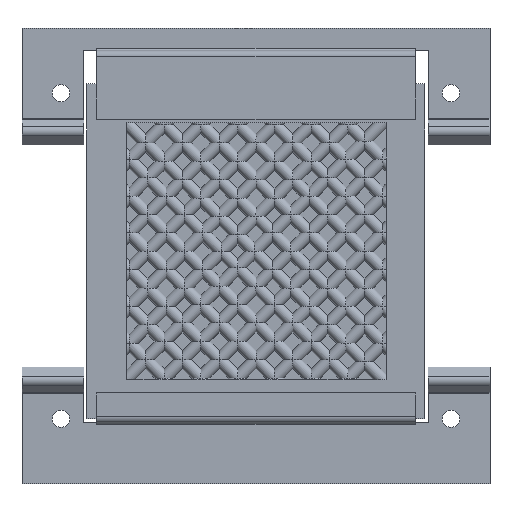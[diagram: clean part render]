
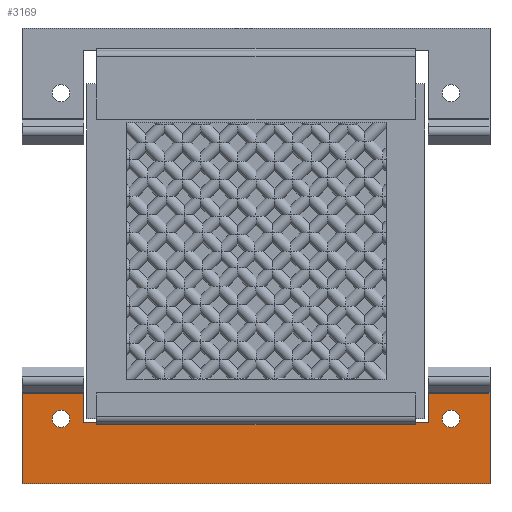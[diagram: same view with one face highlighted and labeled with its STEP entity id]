
A CAD part, front view. The second image highlights one B-rep face of the part: STEP entity #3169.
In plain terms, the highlighted planar face has unit normal (0, -1, 0).
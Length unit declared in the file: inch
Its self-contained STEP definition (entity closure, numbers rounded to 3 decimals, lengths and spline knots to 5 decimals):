
#2301=DIRECTION('',(-1.,0.,0.));
#2302=VECTOR('',#2301,0.125);
#2303=CARTESIAN_POINT('',(1.656,0.,-0.1389));
#2304=LINE('',#2303,#2302);
#2305=DIRECTION('',(0.,0.,-1.));
#2306=VECTOR('',#2305,0.02);
#2307=CARTESIAN_POINT('',(1.531,0.,-0.1189));
#2308=LINE('',#2307,#2306);
#2309=DIRECTION('',(0.,0.,-1.));
#2310=VECTOR('',#2309,0.02);
#2311=CARTESIAN_POINT('',(-1.531,0.,-0.1189));
#2312=LINE('',#2311,#2310);
#2313=DIRECTION('',(-1.,0.,0.));
#2314=VECTOR('',#2313,0.125);
#2315=CARTESIAN_POINT('',(-1.531,0.,-0.1389));
#2316=LINE('',#2315,#2314);
#2317=DIRECTION('',(0.,0.,1.));
#2318=VECTOR('',#2317,0.28235);
#2319=CARTESIAN_POINT('',(-1.656,0.,-0.42125));
#2320=LINE('',#2319,#2318);
#2321=DIRECTION('',(0.,0.,-1.));
#2322=VECTOR('',#2321,0.86735);
#2323=CARTESIAN_POINT('',(-2.25,0.,0.4461));
#2324=LINE('',#2323,#2322);
#2325=DIRECTION('',(0.,0.,1.));
#2326=VECTOR('',#2325,0.28235);
#2327=CARTESIAN_POINT('',(1.656,0.,-0.42125));
#2328=LINE('',#2327,#2326);
#2329=CARTESIAN_POINT('',(1.875,0.,-0.1789));
#2330=DIRECTION('',(0.,1.,0.));
#2331=DIRECTION('',(1.,0.,0.));
#2332=AXIS2_PLACEMENT_3D('',#2329,#2330,#2331);
#2334=CARTESIAN_POINT('',(1.875,0.,-0.1789));
#2335=DIRECTION('',(0.,1.,0.));
#2336=DIRECTION('',(-1.,0.,0.));
#2337=AXIS2_PLACEMENT_3D('',#2334,#2335,#2336);
#2339=CARTESIAN_POINT('',(-1.875,0.,-0.1789));
#2340=DIRECTION('',(0.,1.,0.));
#2341=DIRECTION('',(1.,0.,0.));
#2342=AXIS2_PLACEMENT_3D('',#2339,#2340,#2341);
#2344=CARTESIAN_POINT('',(-1.875,0.,-0.1789));
#2345=DIRECTION('',(0.,1.,0.));
#2346=DIRECTION('',(-1.,0.,0.));
#2347=AXIS2_PLACEMENT_3D('',#2344,#2345,#2346);
#2363=DIRECTION('',(1.,0.,0.));
#2364=VECTOR('',#2363,3.062);
#2365=CARTESIAN_POINT('',(-1.531,0.,-0.1189));
#2366=LINE('',#2365,#2364);
#2591=DIRECTION('',(1.,0.,0.));
#2592=VECTOR('',#2591,0.594);
#2593=CARTESIAN_POINT('',(-2.25,0.,-0.42125));
#2594=LINE('',#2593,#2592);
#2600=DIRECTION('',(1.,0.,0.));
#2601=VECTOR('',#2600,0.594);
#2602=CARTESIAN_POINT('',(1.656,0.,-0.42125));
#2603=LINE('',#2602,#2601);
#2817=DIRECTION('',(1.,0.,0.));
#2818=VECTOR('',#2817,4.5);
#2819=CARTESIAN_POINT('',(-2.25,0.,0.4461));
#2820=LINE('',#2819,#2818);
#2829=DIRECTION('',(0.,0.,-1.));
#2830=VECTOR('',#2829,0.86735);
#2831=CARTESIAN_POINT('',(2.25,0.,0.4461));
#2832=LINE('',#2831,#2830);
#2873=CARTESIAN_POINT('',(-2.25,0.,0.4461));
#2874=CARTESIAN_POINT('',(2.25,0.,0.4461));
#2875=VERTEX_POINT('',#2873);
#2876=VERTEX_POINT('',#2874);
#2890=CARTESIAN_POINT('',(2.25,0.,-0.42125));
#2892=VERTEX_POINT('',#2890);
#2894=CARTESIAN_POINT('',(-2.25,0.,-0.42125));
#2896=VERTEX_POINT('',#2894);
#2945=CARTESIAN_POINT('',(1.656,0.,-0.42125));
#2946=CARTESIAN_POINT('',(1.656,0.,-0.1389));
#2947=VERTEX_POINT('',#2945);
#2948=VERTEX_POINT('',#2946);
#2949=CARTESIAN_POINT('',(-1.656,0.,-0.42125));
#2950=CARTESIAN_POINT('',(-1.656,0.,-0.1389));
#2951=VERTEX_POINT('',#2949);
#2952=VERTEX_POINT('',#2950);
#2969=CARTESIAN_POINT('',(-1.531,0.,-0.1189));
#2970=CARTESIAN_POINT('',(-1.531,0.,-0.1389));
#2971=VERTEX_POINT('',#2969);
#2972=VERTEX_POINT('',#2970);
#2977=CARTESIAN_POINT('',(1.531,0.,-0.1189));
#2978=CARTESIAN_POINT('',(1.531,0.,-0.1389));
#2979=VERTEX_POINT('',#2977);
#2980=VERTEX_POINT('',#2978);
#3033=CARTESIAN_POINT('',(-1.792,0.,-0.1789));
#3034=CARTESIAN_POINT('',(-1.958,0.,-0.1789));
#3035=VERTEX_POINT('',#3033);
#3036=VERTEX_POINT('',#3034);
#3037=CARTESIAN_POINT('',(1.958,0.,-0.1789));
#3038=CARTESIAN_POINT('',(1.792,0.,-0.1789));
#3039=VERTEX_POINT('',#3037);
#3040=VERTEX_POINT('',#3038);
#3129=CARTESIAN_POINT('',(-2.25,0.,0.4461));
#3130=DIRECTION('',(0.,-1.,0.));
#3131=DIRECTION('',(1.,0.,0.));
#3132=AXIS2_PLACEMENT_3D('',#3129,#3130,#3131);
#3133=PLANE('',#3132);
#3134=ORIENTED_EDGE('',*,*,#3092,.T.);
#3135=ORIENTED_EDGE('',*,*,#3120,.F.);
#3137=ORIENTED_EDGE('',*,*,#3136,.F.);
#3139=ORIENTED_EDGE('',*,*,#3138,.T.);
#3140=ORIENTED_EDGE('',*,*,#3110,.T.);
#3142=ORIENTED_EDGE('',*,*,#3141,.F.);
#3144=ORIENTED_EDGE('',*,*,#3143,.F.);
#3146=ORIENTED_EDGE('',*,*,#3145,.F.);
#3148=ORIENTED_EDGE('',*,*,#3147,.T.);
#3150=ORIENTED_EDGE('',*,*,#3149,.T.);
#3152=ORIENTED_EDGE('',*,*,#3151,.F.);
#3154=ORIENTED_EDGE('',*,*,#3153,.T.);
#3155=EDGE_LOOP('',(#3134,#3135,#3137,#3139,#3140,#3142,#3144,#3146,#3148,#3150,
#3152,#3154));
#3156=FACE_OUTER_BOUND('',#3155,.F.);
#3158=ORIENTED_EDGE('',*,*,#3157,.F.);
#3160=ORIENTED_EDGE('',*,*,#3159,.F.);
#3161=EDGE_LOOP('',(#3158,#3160));
#3162=FACE_BOUND('',#3161,.F.);
#3164=ORIENTED_EDGE('',*,*,#3163,.F.);
#3166=ORIENTED_EDGE('',*,*,#3165,.F.);
#3167=EDGE_LOOP('',(#3164,#3166));
#3168=FACE_BOUND('',#3167,.F.);
#2333=CIRCLE('',#2332,0.083);
#2338=CIRCLE('',#2337,0.083);
#2343=CIRCLE('',#2342,0.083);
#2348=CIRCLE('',#2347,0.083);
#3092=EDGE_CURVE('',#2948,#2980,#2304,.T.);
#3110=EDGE_CURVE('',#2972,#2952,#2316,.T.);
#3120=EDGE_CURVE('',#2979,#2980,#2308,.T.);
#3136=EDGE_CURVE('',#2971,#2979,#2366,.T.);
#3138=EDGE_CURVE('',#2971,#2972,#2312,.T.);
#3141=EDGE_CURVE('',#2951,#2952,#2320,.T.);
#3143=EDGE_CURVE('',#2896,#2951,#2594,.T.);
#3145=EDGE_CURVE('',#2875,#2896,#2324,.T.);
#3147=EDGE_CURVE('',#2875,#2876,#2820,.T.);
#3149=EDGE_CURVE('',#2876,#2892,#2832,.T.);
#3151=EDGE_CURVE('',#2947,#2892,#2603,.T.);
#3153=EDGE_CURVE('',#2947,#2948,#2328,.T.);
#3157=EDGE_CURVE('',#3039,#3040,#2333,.T.);
#3159=EDGE_CURVE('',#3040,#3039,#2338,.T.);
#3163=EDGE_CURVE('',#3035,#3036,#2343,.T.);
#3165=EDGE_CURVE('',#3036,#3035,#2348,.T.);
#3169=ADVANCED_FACE('',(#3156,#3162,#3168),#3133,.T.);
